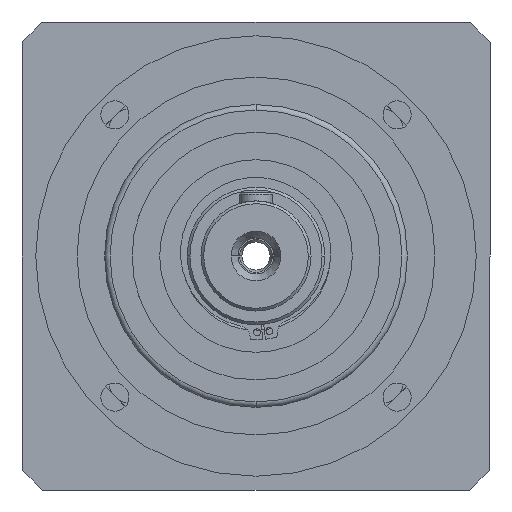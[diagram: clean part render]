
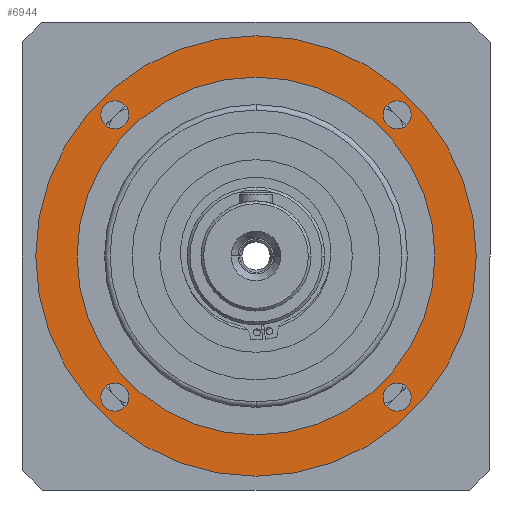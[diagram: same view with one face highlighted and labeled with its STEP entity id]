
A CAD part, front view. The second image highlights one B-rep face of the part: STEP entity #6944.
In plain terms, the highlighted planar face has unit normal (0, -1, 0).
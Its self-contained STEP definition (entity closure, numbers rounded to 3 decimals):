
#146 = CIRCLE ( 'NONE', #1044, 80. ) ;
#181 = CARTESIAN_POINT ( 'NONE',  ( -51.265, -161.5, 56.365 ) ) ;
#237 = CARTESIAN_POINT ( 'NONE',  ( 0., -161.5, 65. ) ) ;
#297 = AXIS2_PLACEMENT_3D ( 'NONE', #7096, #4230, #662 ) ;
#367 = ORIENTED_EDGE ( 'NONE', *, *, #6372, .T. ) ;
#405 = FACE_BOUND ( 'NONE', #7819, .T. ) ;
#409 = VERTEX_POINT ( 'NONE', #5619 ) ;
#470 = EDGE_LOOP ( 'NONE', ( #1008, #8558 ) ) ;
#508 = CIRCLE ( 'NONE', #5572, 5.1 ) ;
#662 = DIRECTION ( 'NONE',  ( 0., 0., -1. ) ) ;
#786 = DIRECTION ( 'NONE',  ( 0., -1., 0. ) ) ;
#822 = DIRECTION ( 'NONE',  ( 0., -1., 0. ) ) ;
#823 = DIRECTION ( 'NONE',  ( 0., -1., 0. ) ) ;
#883 = CIRCLE ( 'NONE', #297, 80. ) ;
#937 = DIRECTION ( 'NONE',  ( 0., -1., 0. ) ) ;
#949 = CIRCLE ( 'NONE', #2216, 5.1 ) ;
#954 = FACE_BOUND ( 'NONE', #470, .T. ) ;
#1008 = ORIENTED_EDGE ( 'NONE', *, *, #3202, .F. ) ;
#1044 = AXIS2_PLACEMENT_3D ( 'NONE', #1554, #786, #5154 ) ;
#1084 = DIRECTION ( 'NONE',  ( 0., -1., 0. ) ) ;
#1111 = ORIENTED_EDGE ( 'NONE', *, *, #7957, .F. ) ;
#1151 = DIRECTION ( 'NONE',  ( 0., -1., 0. ) ) ;
#1185 = DIRECTION ( 'NONE',  ( 0., -1., 0. ) ) ;
#1447 = ORIENTED_EDGE ( 'NONE', *, *, #5809, .F. ) ;
#1450 = DIRECTION ( 'NONE',  ( 0., -1., 0. ) ) ;
#1554 = CARTESIAN_POINT ( 'NONE',  ( 0., -161.5, 0. ) ) ;
#1568 = VERTEX_POINT ( 'NONE', #4900 ) ;
#1607 = FACE_BOUND ( 'NONE', #6305, .T. ) ;
#1716 = CARTESIAN_POINT ( 'NONE',  ( -51.265, -161.5, -51.265 ) ) ;
#1768 = PLANE ( 'NONE',  #4280 ) ;
#1859 = CARTESIAN_POINT ( 'NONE',  ( -51.265, -161.5, -51.265 ) ) ;
#1959 = CIRCLE ( 'NONE', #8629, 5.1 ) ;
#2020 = DIRECTION ( 'NONE',  ( 0., 0., -1. ) ) ;
#2105 = EDGE_CURVE ( 'NONE', #409, #5544, #6523, .T. ) ;
#2216 = AXIS2_PLACEMENT_3D ( 'NONE', #5564, #3299, #4762 ) ;
#2259 = CARTESIAN_POINT ( 'NONE',  ( 51.265, -161.5, 51.265 ) ) ;
#2352 = VERTEX_POINT ( 'NONE', #181 ) ;
#2456 = VERTEX_POINT ( 'NONE', #4695 ) ;
#2490 = EDGE_LOOP ( 'NONE', ( #1111, #1447 ) ) ;
#2522 = DIRECTION ( 'NONE',  ( 0., 0., -1. ) ) ;
#2582 = EDGE_LOOP ( 'NONE', ( #367, #4417 ) ) ;
#2684 = VERTEX_POINT ( 'NONE', #8048 ) ;
#2725 = AXIS2_PLACEMENT_3D ( 'NONE', #6560, #1450, #3672 ) ;
#3049 = AXIS2_PLACEMENT_3D ( 'NONE', #3459, #4845, #5646 ) ;
#3061 = FACE_OUTER_BOUND ( 'NONE', #2582, .T. ) ;
#3202 = EDGE_CURVE ( 'NONE', #5582, #8102, #6119, .T. ) ;
#3299 = DIRECTION ( 'NONE',  ( 0., -1., 0. ) ) ;
#3366 = CARTESIAN_POINT ( 'NONE',  ( 0., -161.5, -80. ) ) ;
#3459 = CARTESIAN_POINT ( 'NONE',  ( 0., -161.5, 0. ) ) ;
#3529 = VERTEX_POINT ( 'NONE', #3699 ) ;
#3672 = DIRECTION ( 'NONE',  ( 0., 0., -1. ) ) ;
#3699 = CARTESIAN_POINT ( 'NONE',  ( 51.265, -161.5, 46.165 ) ) ;
#3723 = DIRECTION ( 'NONE',  ( 0., 0., -1. ) ) ;
#3730 = ORIENTED_EDGE ( 'NONE', *, *, #5407, .F. ) ;
#3875 = EDGE_CURVE ( 'NONE', #4917, #5376, #6903, .T. ) ;
#4230 = DIRECTION ( 'NONE',  ( 0., -1., 0. ) ) ;
#4280 = AXIS2_PLACEMENT_3D ( 'NONE', #6793, #1185, #2522 ) ;
#4376 = ORIENTED_EDGE ( 'NONE', *, *, #5208, .F. ) ;
#4388 = CARTESIAN_POINT ( 'NONE',  ( 0., -161.5, -65. ) ) ;
#4417 = ORIENTED_EDGE ( 'NONE', *, *, #8599, .T. ) ;
#4520 = DIRECTION ( 'NONE',  ( 0., -1., 0. ) ) ;
#4591 = EDGE_CURVE ( 'NONE', #8102, #5582, #6162, .T. ) ;
#4662 = DIRECTION ( 'NONE',  ( 0., 0., -1. ) ) ;
#4695 = CARTESIAN_POINT ( 'NONE',  ( 0., -161.5, 80. ) ) ;
#4762 = DIRECTION ( 'NONE',  ( 0., 0., -1. ) ) ;
#4845 = DIRECTION ( 'NONE',  ( 0., -1., 0. ) ) ;
#4900 = CARTESIAN_POINT ( 'NONE',  ( -51.265, -161.5, 46.165 ) ) ;
#4917 = VERTEX_POINT ( 'NONE', #4388 ) ;
#4962 = CARTESIAN_POINT ( 'NONE',  ( 0., -161.5, 0. ) ) ;
#4984 = FACE_BOUND ( 'NONE', #7175, .T. ) ;
#5102 = FACE_BOUND ( 'NONE', #2490, .T. ) ;
#5154 = DIRECTION ( 'NONE',  ( 0., 0., -1. ) ) ;
#5208 = EDGE_CURVE ( 'NONE', #5376, #4917, #5810, .T. ) ;
#5242 = CARTESIAN_POINT ( 'NONE',  ( 51.265, -161.5, -51.265 ) ) ;
#5293 = CARTESIAN_POINT ( 'NONE',  ( -51.265, -161.5, -46.165 ) ) ;
#5376 = VERTEX_POINT ( 'NONE', #237 ) ;
#5407 = EDGE_CURVE ( 'NONE', #1568, #2352, #1959, .T. ) ;
#5544 = VERTEX_POINT ( 'NONE', #9191 ) ;
#5564 = CARTESIAN_POINT ( 'NONE',  ( 51.265, -161.5, 51.265 ) ) ;
#5572 = AXIS2_PLACEMENT_3D ( 'NONE', #5242, #937, #7892 ) ;
#5582 = VERTEX_POINT ( 'NONE', #7012 ) ;
#5619 = CARTESIAN_POINT ( 'NONE',  ( 51.265, -161.5, -46.165 ) ) ;
#5646 = DIRECTION ( 'NONE',  ( 0., 0., -1. ) ) ;
#5809 = EDGE_CURVE ( 'NONE', #2684, #3529, #949, .T. ) ;
#5810 = CIRCLE ( 'NONE', #3049, 65. ) ;
#6012 = ORIENTED_EDGE ( 'NONE', *, *, #2105, .F. ) ;
#6066 = DIRECTION ( 'NONE',  ( 0., 0., -1. ) ) ;
#6107 = DIRECTION ( 'NONE',  ( 0., 0., -1. ) ) ;
#6119 = CIRCLE ( 'NONE', #6175, 5.1 ) ;
#6162 = CIRCLE ( 'NONE', #7917, 5.1 ) ;
#6175 = AXIS2_PLACEMENT_3D ( 'NONE', #1859, #1151, #4662 ) ;
#6305 = EDGE_LOOP ( 'NONE', ( #6819, #6012 ) ) ;
#6372 = EDGE_CURVE ( 'NONE', #8444, #2456, #146, .T. ) ;
#6517 = AXIS2_PLACEMENT_3D ( 'NONE', #2259, #822, #6581 ) ;
#6523 = CIRCLE ( 'NONE', #2725, 5.1 ) ;
#6560 = CARTESIAN_POINT ( 'NONE',  ( 51.265, -161.5, -51.265 ) ) ;
#6581 = DIRECTION ( 'NONE',  ( 0., 0., -1. ) ) ;
#6793 = CARTESIAN_POINT ( 'NONE',  ( 0., -161.5, 0. ) ) ;
#6819 = ORIENTED_EDGE ( 'NONE', *, *, #7114, .F. ) ;
#6835 = CARTESIAN_POINT ( 'NONE',  ( -51.265, -161.5, 51.265 ) ) ;
#6903 = CIRCLE ( 'NONE', #7243, 65. ) ;
#6944 = ADVANCED_FACE ( 'NONE', ( #1607, #5102, #4984, #954, #405, #3061 ), #1768, .T. ) ;
#7012 = CARTESIAN_POINT ( 'NONE',  ( -51.265, -161.5, -56.365 ) ) ;
#7096 = CARTESIAN_POINT ( 'NONE',  ( 0., -161.5, 0. ) ) ;
#7114 = EDGE_CURVE ( 'NONE', #5544, #409, #508, .T. ) ;
#7175 = EDGE_LOOP ( 'NONE', ( #3730, #7881 ) ) ;
#7243 = AXIS2_PLACEMENT_3D ( 'NONE', #4962, #7699, #2020 ) ;
#7369 = CIRCLE ( 'NONE', #8009, 5.1 ) ;
#7401 = CIRCLE ( 'NONE', #6517, 5.1 ) ;
#7535 = EDGE_CURVE ( 'NONE', #2352, #1568, #7369, .T. ) ;
#7583 = ORIENTED_EDGE ( 'NONE', *, *, #3875, .F. ) ;
#7699 = DIRECTION ( 'NONE',  ( 0., -1., 0. ) ) ;
#7819 = EDGE_LOOP ( 'NONE', ( #7583, #4376 ) ) ;
#7881 = ORIENTED_EDGE ( 'NONE', *, *, #7535, .F. ) ;
#7892 = DIRECTION ( 'NONE',  ( 0., 0., -1. ) ) ;
#7908 = CARTESIAN_POINT ( 'NONE',  ( -51.265, -161.5, 51.265 ) ) ;
#7917 = AXIS2_PLACEMENT_3D ( 'NONE', #1716, #4520, #6066 ) ;
#7957 = EDGE_CURVE ( 'NONE', #3529, #2684, #7401, .T. ) ;
#8009 = AXIS2_PLACEMENT_3D ( 'NONE', #6835, #1084, #6107 ) ;
#8048 = CARTESIAN_POINT ( 'NONE',  ( 51.265, -161.5, 56.365 ) ) ;
#8102 = VERTEX_POINT ( 'NONE', #5293 ) ;
#8444 = VERTEX_POINT ( 'NONE', #3366 ) ;
#8558 = ORIENTED_EDGE ( 'NONE', *, *, #4591, .F. ) ;
#8599 = EDGE_CURVE ( 'NONE', #2456, #8444, #883, .T. ) ;
#8629 = AXIS2_PLACEMENT_3D ( 'NONE', #7908, #823, #3723 ) ;
#9191 = CARTESIAN_POINT ( 'NONE',  ( 51.265, -161.5, -56.365 ) ) ;
